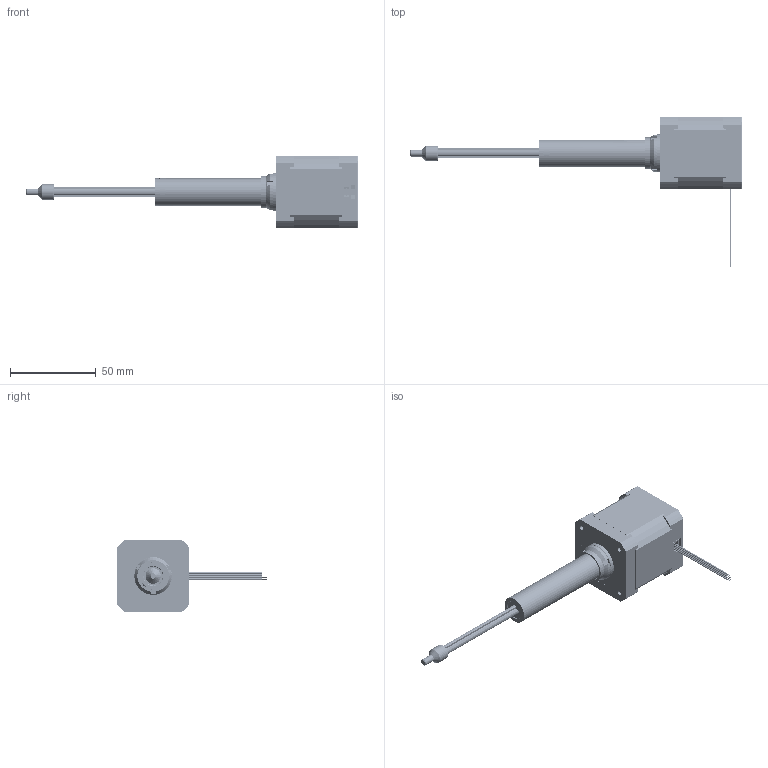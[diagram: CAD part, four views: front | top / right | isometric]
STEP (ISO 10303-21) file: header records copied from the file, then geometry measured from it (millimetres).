
FILE_DESCRIPTION((''),'2;1');
FILE_NAME('42CC4X-X-XXX-XXX_ASM','2023-03-24T',('guangyan.zhou'),(''),'CREO PARAMETRIC BY PTC INC, 2017300','CREO PARAMETRIC BY PTC INC, 2017300','');
FILE_SCHEMA(('CONFIG_CONTROL_DESIGN'));
Products named in the file (150): EB42-1003_AF0; ST42-1003_AF61; ST42-1003_AF62; ST42-1003_AF63; ST42-1003_AF64; ST42-1003_AF65; ST42-1003_AF66; ST42-1003_AF67; ST42-1003_AF68; ST42-1003_AF69; ST42-1003_AF70; ST42-1003_AF71; ST42-1003_AF72; ST42-1003_AF73; ST42-1003_AF74; ST42-1003_AF75; ST42-1003_AF76; ST42-1003_AF77; ST42-1003_AF78; ST42-1003_AF79; ST42-1003_AF80; ST42-1003_AF81; ST42-1003_AF82; ST42-1003_AF83; ST42-1003_AF84; ST42-1003_AF85; ST42-1003_AF86; ST42-1003_AF87; ST42-1003_AF88; ST42-1003_AF89; ST42-1003_AF90; ST42-1003_AF91; ST42-1003_AF92; ST42-1003_AF93; ST42-1003_AF94; ST42-1003_AF95; ST42-1003_AF96; ST42-1003_AF97; ST42-1003_AF98; ST42-1003_AF99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
Assembly tree (151 placements, depth 4):
  42CC4X-X-XXX-XXX_ASM
    EB42-1003_AF0
    ST42-1004_AF0_ASM
      ST42-1005_AF0_ASM
        ST42-1003_AF61
        ST42-1003_AF62
        ST42-1003_AF63
        ST42-1003_AF64
        ST42-1003_AF65
        ST42-1003_AF66
        ST42-1003_AF67
        ST42-1003_AF68
        ST42-1003_AF69
        ST42-1003_AF70
        ST42-1003_AF71
        ST42-1003_AF72
        ST42-1003_AF73
        ST42-1003_AF74
        ST42-1003_AF75
        ST42-1003_AF76
        ST42-1003_AF77
        ST42-1003_AF78
        ST42-1003_AF79
        ST42-1003_AF80
        ST42-1003_AF81
        ST42-1003_AF82
        ST42-1003_AF83
        ST42-1003_AF84
        ST42-1003_AF85
        ST42-1003_AF86
        ST42-1003_AF87
        ST42-1003_AF88
        ST42-1003_AF89
        ST42-1003_AF90
        ST42-1003_AF91
        ST42-1003_AF92
        ST42-1003_AF93
        ST42-1003_AF94
        ST42-1003_AF95
        ST42-1003_AF96
        ST42-1003_AF97
        ST42-1003_AF98
        ST42-1003_AF99
        ST42-1003_AF100
        ST42-1003_AF101
        ST42-1003_AF102
        ST42-1003_AF103
        ST42-1003_AF104
        ST42-1003_AF105
        ST42-1003_AF106
        ST42-1003_AF107
        ST42-1003_AF108
        ST42-1003_AF109
        ST42-1003_AF110
        ST42-1003_AF111
        ST42-1003_AF112
        ST42-1003_AF113
        ST42-1003_AF114
        ST42-1003_AF115
        ST42-1003_AF116
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Bounding box: 193.6 x 87.45 x 42.2 mm (x, y, z)
Volume: 36959.1 mm3; surface area: 89235.2 mm2
Topology: 117 solids, 133 shells, 6698 faces, 19066 edges, 12670 vertices
Faces by surface type: cylinder 3175, plane 2645, extrusion 727, bspline 78, cone 32, torus 32, sphere 9
Entity records: 266383 total; most frequent: CARTESIAN_POINT 83013, ORIENTED_EDGE 38064, DIRECTION 36724, EDGE_CURVE 19061, VERTEX_POINT 12670, AXIS2_PLACEMENT_3D 12598, VECTOR 11528, LINE 10801
